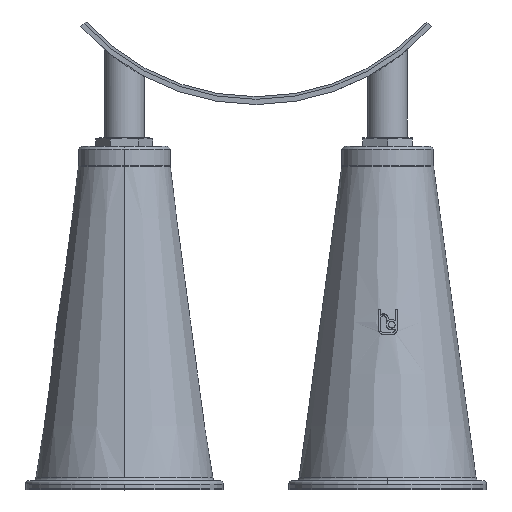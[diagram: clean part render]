
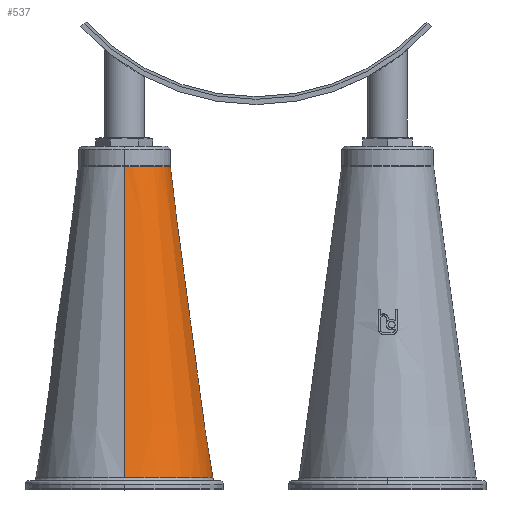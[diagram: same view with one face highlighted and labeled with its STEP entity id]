
A CAD part, front view. The second image highlights one B-rep face of the part: STEP entity #537.
In plain terms, the highlighted conical face has half-angle 7.768 degrees and reference radius 102.093 mm.
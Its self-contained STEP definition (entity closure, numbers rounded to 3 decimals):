
#537=ADVANCED_FACE('',(#1100),#1101,.T.);
#1100=FACE_OUTER_BOUND('',#1750,.T.);
#1101=CONICAL_SURFACE('',#1751,102.093,0.136);
#1750=EDGE_LOOP('',(#3055,#3056,#3057,#3058,#3059));
#1751=AXIS2_PLACEMENT_3D('',#3060,#3061,#3062);
#3055=ORIENTED_EDGE('',*,*,#4094,.T.);
#3056=ORIENTED_EDGE('',*,*,#4175,.F.);
#3057=ORIENTED_EDGE('',*,*,#4035,.F.);
#3058=ORIENTED_EDGE('',*,*,#4096,.T.);
#3059=ORIENTED_EDGE('',*,*,#4176,.T.);
#3060=CARTESIAN_POINT('',(243.621,165.278,-12.338));
#3061=DIRECTION('',(0.,0.,-1.0));
#3062=DIRECTION('',(0.,-1.0,0.));
#4035=EDGE_CURVE('',#4860,#4862,#4863,.T.);
#4094=EDGE_CURVE('',#4967,#4968,#4969,.T.);
#4096=EDGE_CURVE('',#4860,#4970,#4972,.T.);
#4175=EDGE_CURVE('',#4862,#4968,#5096,.T.);
#4176=EDGE_CURVE('',#4970,#4967,#5097,.T.);
#4860=VERTEX_POINT('',#6876);
#4862=VERTEX_POINT('',#6878);
#4863=CIRCLE('',#6879,134.41);
#4967=VERTEX_POINT('',#7337);
#4968=VERTEX_POINT('',#7338);
#4969=LINE('',#7339,#7340);
#4970=VERTEX_POINT('',#7341);
#4972=LINE('',#7343,#7344);
#5096=CIRCLE('',#7828,134.41);
#5097=CIRCLE('',#7829,69.775);
#6876=CARTESIAN_POINT('',(243.621,299.688,-249.231));
#6878=CARTESIAN_POINT('',(378.031,165.278,-249.231));
#6879=AXIS2_PLACEMENT_3D('',#8745,#8746,#8747);
#7337=CARTESIAN_POINT('',(243.621,95.502,224.555));
#7338=CARTESIAN_POINT('',(243.621,30.867,-249.231));
#7339=CARTESIAN_POINT('',(243.621,63.185,-12.338));
#7340=VECTOR('',#8817,1.0);
#7341=CARTESIAN_POINT('',(243.621,235.053,224.555));
#7343=CARTESIAN_POINT('',(243.621,267.37,-12.338));
#7344=VECTOR('',#8821,1.0);
#7828=AXIS2_PLACEMENT_3D('',#8902,#8903,#8904);
#7829=AXIS2_PLACEMENT_3D('',#8905,#8906,#8907);
#8745=CARTESIAN_POINT('',(243.621,165.278,-249.231));
#8746=DIRECTION('',(0.,0.,-1.0));
#8747=DIRECTION('',(0.,-1.0,0.));
#8817=DIRECTION('',(0.,-0.135,-0.991));
#8821=DIRECTION('',(0.,-0.135,0.991));
#8902=CARTESIAN_POINT('',(243.621,165.278,-249.231));
#8903=DIRECTION('',(0.,0.,-1.0));
#8904=DIRECTION('',(0.,-1.0,0.));
#8905=CARTESIAN_POINT('',(243.621,165.278,224.555));
#8906=DIRECTION('',(0.,0.,-1.0));
#8907=DIRECTION('',(0.,-1.0,0.));
